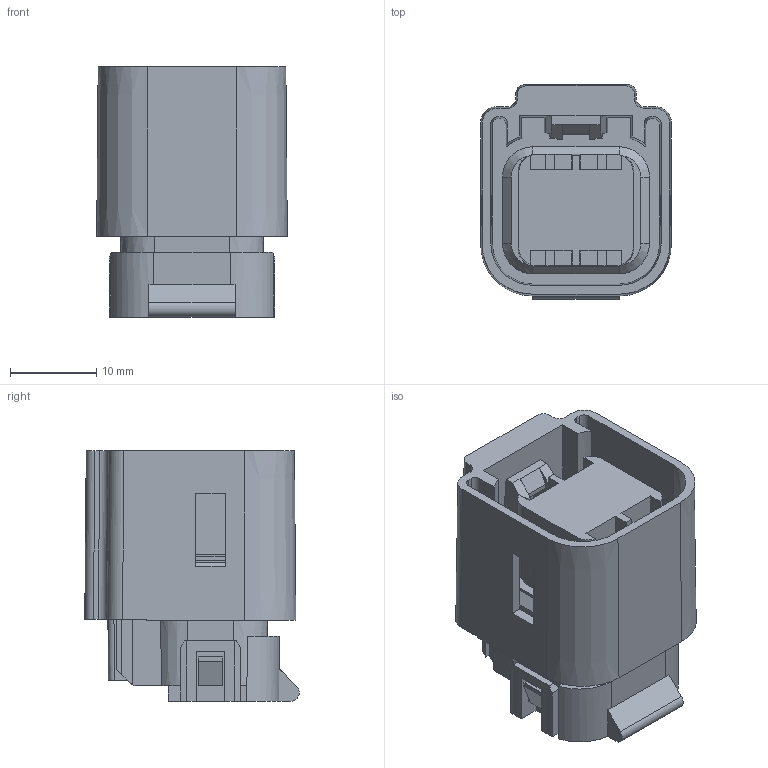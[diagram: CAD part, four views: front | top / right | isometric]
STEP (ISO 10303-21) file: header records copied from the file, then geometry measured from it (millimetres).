
FILE_DESCRIPTION(/* description */ (''),/* implementation_level */ '2;1');
FILE_NAME(/* name */ '13572498-STEP-3D.stp',/* time_stamp */ '2021-08-04T19:48:51+05:00',/* author */ (''),/* organization */ (''),/* preprocessor_version */ 'ST-DEVELOPER v16',/* originating_system */ 'SIEMENS PLM Software NX 11.0',/* authorisation */ '');
FILE_SCHEMA (('AUTOMOTIVE_DESIGN { 1 0 10303 214 3 1 1 1 }'));
Length unit declared in the file: millimetre
Products named in the file (1): cjzt76941658azs6
Bounding box: 22.06 x 24.82 x 29 mm (x, y, z)
Volume: 8521 mm3; surface area: 6601.5 mm2
Topology: 1 solids, 1 shells, 304 faces, 851 edges, 550 vertices
Faces by surface type: plane 227, cylinder 45, cone 32
Entity records: 9755 total; most frequent: CARTESIAN_POINT 1784, ORIENTED_EDGE 1702, DIRECTION 1607, EDGE_CURVE 851, LINE 673, VECTOR 673, VERTEX_POINT 550, AXIS2_PLACEMENT_3D 467
